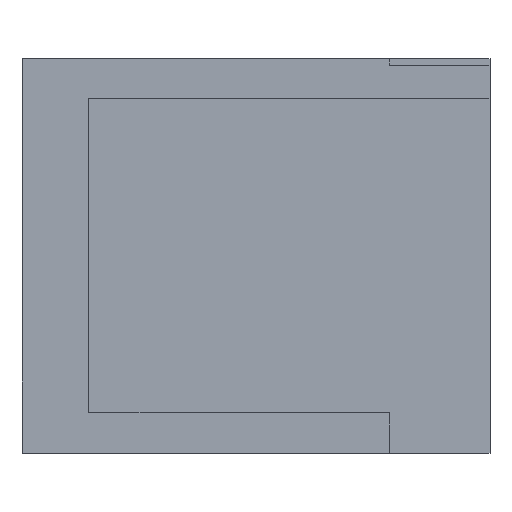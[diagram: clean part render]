
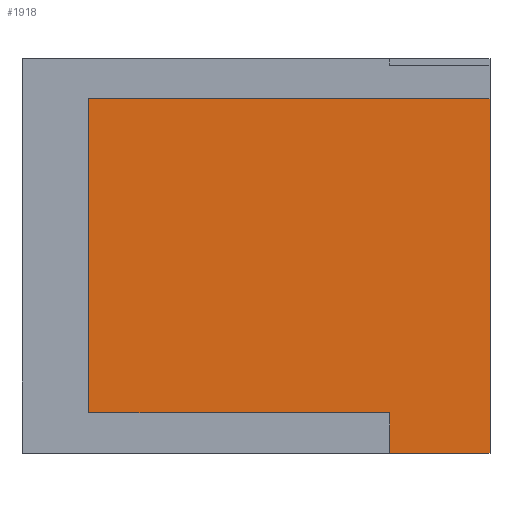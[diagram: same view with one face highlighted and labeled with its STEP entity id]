
A CAD part, top view. The second image highlights one B-rep face of the part: STEP entity #1918.
In plain terms, the highlighted planar face has unit normal (0, 0, 1).
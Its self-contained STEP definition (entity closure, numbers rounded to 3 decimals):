
#90 = PLANE('',#91);
#91 = AXIS2_PLACEMENT_3D('',#92,#93,#94);
#92 = CARTESIAN_POINT('',(-33.,-11.8,24.));
#93 = DIRECTION('',(0.,1.,0.));
#94 = DIRECTION('',(0.,0.,1.));
#197 = PLANE('',#198);
#198 = AXIS2_PLACEMENT_3D('',#199,#200,#201);
#199 = CARTESIAN_POINT('',(-19.,-14.,11.));
#200 = DIRECTION('',(1.,0.,0.));
#201 = DIRECTION('',(0.,0.,1.));
#894 = PLANE('',#895);
#895 = AXIS2_PLACEMENT_3D('',#896,#897,#898);
#896 = CARTESIAN_POINT('',(-31.,-5.2,61.));
#897 = DIRECTION('',(1.,0.,0.));
#898 = DIRECTION('',(0.,0.,1.));
#919 = PLANE('',#920);
#920 = AXIS2_PLACEMENT_3D('',#921,#922,#923);
#921 = CARTESIAN_POINT('',(0.,-1.2,45.));
#922 = DIRECTION('',(0.,-1.,0.));
#923 = DIRECTION('',(1.,0.,0.));
#934 = VERTEX_POINT('',#935);
#935 = CARTESIAN_POINT('',(-19.,-11.8,26.));
#1009 = VERTEX_POINT('',#1010);
#1010 = CARTESIAN_POINT('',(-31.,-11.8,26.));
#1031 = EDGE_CURVE('',#1009,#934,#1032,.T.);
#1032 = SURFACE_CURVE('',#1033,(#1037,#1044),.PCURVE_S1.);
#1033 = LINE('',#1034,#1035);
#1034 = CARTESIAN_POINT('',(-33.,-11.8,26.));
#1035 = VECTOR('',#1036,1.);
#1036 = DIRECTION('',(1.,0.,0.));
#1037 = PCURVE('',#90,#1038);
#1038 = DEFINITIONAL_REPRESENTATION('',(#1039),#1043);
#1039 = LINE('',#1040,#1041);
#1040 = CARTESIAN_POINT('',(2.,0.));
#1041 = VECTOR('',#1042,1.);
#1042 = DIRECTION('',(0.,1.));
#1043 = ( GEOMETRIC_REPRESENTATION_CONTEXT(2) 
PARAMETRIC_REPRESENTATION_CONTEXT() REPRESENTATION_CONTEXT('2D SPACE',''
  ) );
#1044 = PCURVE('',#1045,#1050);
#1045 = PLANE('',#1046);
#1046 = AXIS2_PLACEMENT_3D('',#1047,#1048,#1049);
#1047 = CARTESIAN_POINT('',(-33.,-11.8,26.));
#1048 = DIRECTION('',(0.,0.,1.));
#1049 = DIRECTION('',(1.,0.,0.));
#1050 = DEFINITIONAL_REPRESENTATION('',(#1051),#1055);
#1051 = LINE('',#1052,#1053);
#1052 = CARTESIAN_POINT('',(0.,0.));
#1053 = VECTOR('',#1054,1.);
#1054 = DIRECTION('',(1.,0.));
#1055 = ( GEOMETRIC_REPRESENTATION_CONTEXT(2) 
PARAMETRIC_REPRESENTATION_CONTEXT() REPRESENTATION_CONTEXT('2D SPACE',''
  ) );
#1489 = VERTEX_POINT('',#1490);
#1490 = CARTESIAN_POINT('',(-19.,-1.2,26.));
#1509 = EDGE_CURVE('',#934,#1489,#1510,.T.);
#1510 = SURFACE_CURVE('',#1511,(#1515,#1521),.PCURVE_S1.);
#1511 = LINE('',#1512,#1513);
#1512 = CARTESIAN_POINT('',(-19.,-12.9,26.));
#1513 = VECTOR('',#1514,1.);
#1514 = DIRECTION('',(0.,1.,0.));
#1515 = PCURVE('',#197,#1516);
#1516 = DEFINITIONAL_REPRESENTATION('',(#1517),#1520);
#1517 = B_SPLINE_CURVE_WITH_KNOTS('',1,(#1518,#1519),.UNSPECIFIED.,.F.,
  .F.,(2,2),(1.1,11.7),.PIECEWISE_BEZIER_KNOTS.);
#1518 = CARTESIAN_POINT('',(15.,-2.2));
#1519 = CARTESIAN_POINT('',(15.,-12.8));
#1520 = ( GEOMETRIC_REPRESENTATION_CONTEXT(2) 
PARAMETRIC_REPRESENTATION_CONTEXT() REPRESENTATION_CONTEXT('2D SPACE',''
  ) );
#1521 = PCURVE('',#1045,#1522);
#1522 = DEFINITIONAL_REPRESENTATION('',(#1523),#1526);
#1523 = B_SPLINE_CURVE_WITH_KNOTS('',1,(#1524,#1525),.UNSPECIFIED.,.F.,
  .F.,(2,2),(1.1,11.7),.PIECEWISE_BEZIER_KNOTS.);
#1524 = CARTESIAN_POINT('',(14.,0.));
#1525 = CARTESIAN_POINT('',(14.,10.6));
#1526 = ( GEOMETRIC_REPRESENTATION_CONTEXT(2) 
PARAMETRIC_REPRESENTATION_CONTEXT() REPRESENTATION_CONTEXT('2D SPACE',''
  ) );
#1719 = EDGE_CURVE('',#1489,#1720,#1722,.T.);
#1720 = VERTEX_POINT('',#1721);
#1721 = CARTESIAN_POINT('',(-31.,-1.2,26.));
#1722 = SURFACE_CURVE('',#1723,(#1727,#1734),.PCURVE_S1.);
#1723 = LINE('',#1724,#1725);
#1724 = CARTESIAN_POINT('',(31.,-1.2,26.));
#1725 = VECTOR('',#1726,1.);
#1726 = DIRECTION('',(-1.,0.,0.));
#1727 = PCURVE('',#919,#1728);
#1728 = DEFINITIONAL_REPRESENTATION('',(#1729),#1733);
#1729 = LINE('',#1730,#1731);
#1730 = CARTESIAN_POINT('',(31.,-19.));
#1731 = VECTOR('',#1732,1.);
#1732 = DIRECTION('',(-1.,0.));
#1733 = ( GEOMETRIC_REPRESENTATION_CONTEXT(2) 
PARAMETRIC_REPRESENTATION_CONTEXT() REPRESENTATION_CONTEXT('2D SPACE',''
  ) );
#1734 = PCURVE('',#1045,#1735);
#1735 = DEFINITIONAL_REPRESENTATION('',(#1736),#1740);
#1736 = LINE('',#1737,#1738);
#1737 = CARTESIAN_POINT('',(64.,10.6));
#1738 = VECTOR('',#1739,1.);
#1739 = DIRECTION('',(-1.,0.));
#1740 = ( GEOMETRIC_REPRESENTATION_CONTEXT(2) 
PARAMETRIC_REPRESENTATION_CONTEXT() REPRESENTATION_CONTEXT('2D SPACE',''
  ) );
#1815 = EDGE_CURVE('',#1720,#1009,#1816,.T.);
#1816 = SURFACE_CURVE('',#1817,(#1821,#1828),.PCURVE_S1.);
#1817 = LINE('',#1818,#1819);
#1818 = CARTESIAN_POINT('',(-31.,-11.8,26.));
#1819 = VECTOR('',#1820,1.);
#1820 = DIRECTION('',(0.,-1.,0.));
#1821 = PCURVE('',#894,#1822);
#1822 = DEFINITIONAL_REPRESENTATION('',(#1823),#1827);
#1823 = LINE('',#1824,#1825);
#1824 = CARTESIAN_POINT('',(-35.,6.6));
#1825 = VECTOR('',#1826,1.);
#1826 = DIRECTION('',(0.,1.));
#1827 = ( GEOMETRIC_REPRESENTATION_CONTEXT(2) 
PARAMETRIC_REPRESENTATION_CONTEXT() REPRESENTATION_CONTEXT('2D SPACE',''
  ) );
#1828 = PCURVE('',#1045,#1829);
#1829 = DEFINITIONAL_REPRESENTATION('',(#1830),#1834);
#1830 = LINE('',#1831,#1832);
#1831 = CARTESIAN_POINT('',(2.,0.));
#1832 = VECTOR('',#1833,1.);
#1833 = DIRECTION('',(0.,-1.));
#1834 = ( GEOMETRIC_REPRESENTATION_CONTEXT(2) 
PARAMETRIC_REPRESENTATION_CONTEXT() REPRESENTATION_CONTEXT('2D SPACE',''
  ) );
#1918 = ADVANCED_FACE('',(#1919),#1045,.T.);
#1919 = FACE_BOUND('',#1920,.T.);
#1920 = EDGE_LOOP('',(#1921,#1922,#1923,#1924));
#1921 = ORIENTED_EDGE('',*,*,#1719,.T.);
#1922 = ORIENTED_EDGE('',*,*,#1815,.T.);
#1923 = ORIENTED_EDGE('',*,*,#1031,.T.);
#1924 = ORIENTED_EDGE('',*,*,#1509,.T.);
